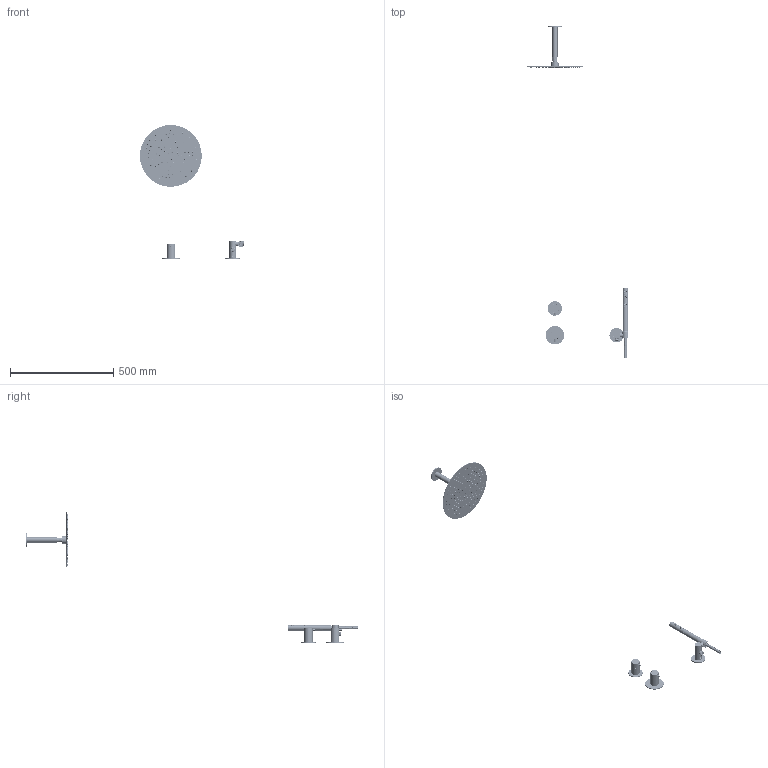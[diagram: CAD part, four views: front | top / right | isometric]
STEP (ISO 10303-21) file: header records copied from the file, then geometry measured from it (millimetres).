
FILE_DESCRIPTION((''),'2;1');
FILE_NAME('57068--_ASM','2025-03-21T12:32:40',('simi1'),(''),'CREO PARAMETRIC BY PTC INC, 2022244','CREO PARAMETRIC BY PTC INC, 2022244','');
FILE_SCHEMA(('CONFIG_CONTROL_DESIGN'));
Products named in the file (98): 46372--; 4396500; 4668000; 46373--_ASM; 44978--; 4642300; 4498000; 46498--_ASM; 46022--; 4600600; 1904300; 44986--; 4498800; 44989--_ASM; 4648800; 4642285; 76709--00_SUB01_ASM; 46492--; 4636100; 46356--_ASM; 4498500; 4498100; 46017--_ASM; 44979--; 44987--; 44990--_ASM; 4498300; 4625100; 76708--00_SUB01_ASM; 4443500; 4424300; 44246--_ASM; 46627--; 4443300; 76618--00_ASM; P32600-001_2; SPRAYPLATE; P32500-015_7; SPRAYPLATE_ASSY_ASM; P10100-003_2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
Assembly tree (272 placements, depth 6):
  57068--_ASM
    76709--00_SUB01_ASM
      46373--_ASM
        46372--
        4396500
        4668000
      46498--_ASM
        44978--
        4642300
        4498000
      44989--_ASM
        46022--
        4600600
        1904300
        44986--
        4498800
      4648800
      4642285
    76708--00_SUB01_ASM
      46356--_ASM
        46492--
        4396500
        4636100
      46017--_ASM
        44978--
        4498500
        4498100
      44990--_ASM
        44979--
        4600600
        44987--
        4498800
      4498300
      4625100
    76618--00_ASM
      44246--_ASM
        4443500
        4424300
      46627--
      4443300
    91684--00_ASM
      46672--_ASM
        P42702_ASM_21_ASM
          SPRAYPLATE_ASSY_ASM
            P32600-001_2
            SPRAYPLATE
            P32500-015_7  x170
          F200-011_ASM_2_ASM
            P10100-003_2
            P24800-010_2
            30100069_2
          T10367_ASM_1_ASM
            T10364-001_34
            P26500-017_4
    48756--00_ASM
      46883--_ASM
        4420585
        4449100
        46618--
        46884--
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Bounding box: 505.28 x 1610.55 x 650.5 mm (x, y, z)
Volume: 483572.4 mm3; surface area: 609729.5 mm2
Topology: 242 solids, 242 shells, 14331 faces, 39129 edges, 26465 vertices
Faces by surface type: plane 5391, cylinder 4082, torus 2507, cone 1807, bspline 454, sphere 81, revolution 6, extrusion 3
Entity records: 291885 total; most frequent: CARTESIAN_POINT 106179, ORIENTED_EDGE 39872, DIRECTION 36255, EDGE_CURVE 19936, VERTEX_POINT 13063, AXIS2_PLACEMENT_3D 12274, VECTOR 11701, LINE 11698
